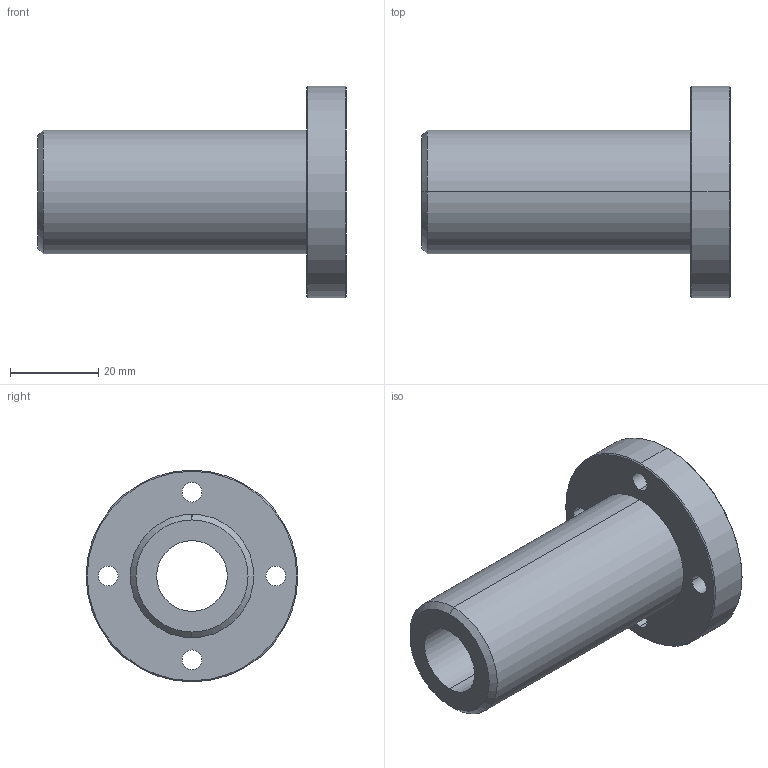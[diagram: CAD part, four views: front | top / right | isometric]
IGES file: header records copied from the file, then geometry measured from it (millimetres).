
Start section: 3D InterOp IGES (Version 21 0 1), Spatial Corp. Copyright (c) 1999-2007.
Global section: file name: DFPJR16.igs; native system: Spatial Corp.; preprocessor: 3D InterOp GENERIC/IGES 3.0; author: Noname; organization: Noname; date: 20220324.143837; units: millimetre
Bounding box: 70 x 48 x 48 mm (x, y, z)
Surface area: 13880.6 mm2 (no closed solid volume)
Topology: 0 solids, 0 shells, 35 faces, 156 edges, 156 vertices
Faces by surface type: revolution 28, extrusion 7
